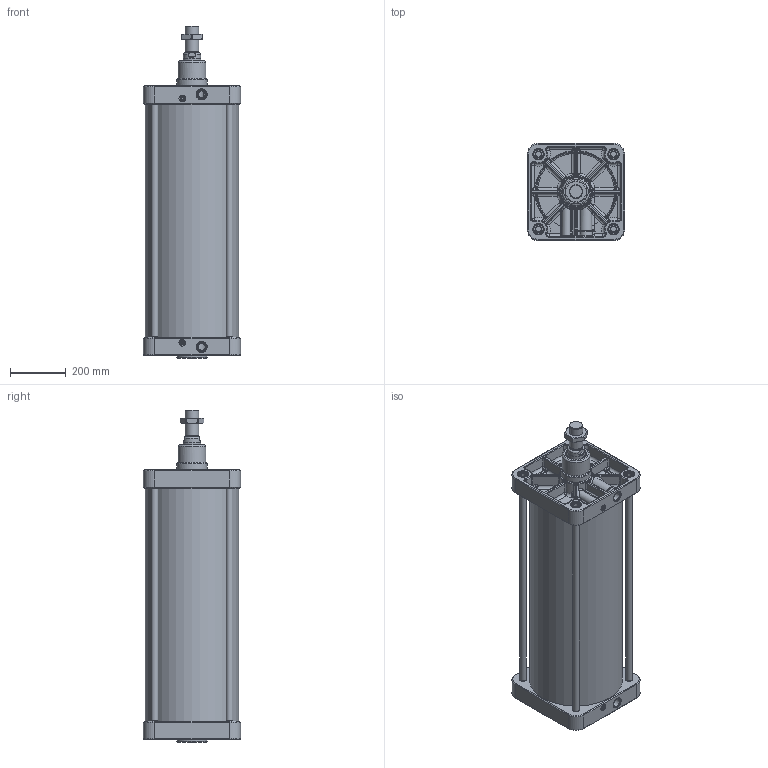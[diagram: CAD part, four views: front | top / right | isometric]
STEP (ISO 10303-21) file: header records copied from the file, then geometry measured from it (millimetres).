
FILE_DESCRIPTION(/* description */ (''),/* implementation_level */ '2;1');
FILE_NAME(/* name */ 'T:\Archivio Inventor\- 00 NUOVI STP PER SITO CON STELO CHE SI MUOVE\SERIE H - U\SERIE UDM\UDM320.---.GS.M\UDM320.750.GS.M.stp',/* time_stamp */ '2020-04-29T16:36:21+02:00',/* author */ ('carlo.corazza'),/* organization */ (''),/* preprocessor_version */ 'ST-DEVELOPER v16.5',/* originating_system */ 'Autodesk Inventor 2017',/* authorisation */ '');
FILE_SCHEMA (('AUTOMOTIVE_DESIGN { 1 0 10303 214 3 1 1 }'));
Length unit declared in the file: millimetre
Products named in the file (7): UDM320.750.GS.M; TP; STELO-750; TA; CORPO-750; TIRANTE-750; 29.2048.000.0
Assembly tree (9 placements, depth 2):
  UDM320.750.GS.M
    TP
    STELO-750
    TA
    TIRANTE-750  x4
    CORPO-750
    29.2048.000.0
Bounding box: 350 x 350 x 1196 mm (x, y, z)
Volume: 21031184.6 mm3; surface area: 3397448.2 mm2
Topology: 9 solids, 16 shells, 1710 faces, 3937 edges, 2221 vertices
Faces by surface type: cylinder 439, bspline 432, plane 380, torus 252, cone 115, sphere 92
Full cylindrical faces by diameter (mm): 8 x2, 9 x1, 10 x1, 11 x2, 11.2 x2, 12 x2, 12.376 x1, 13.4 x4, 14 x2, 15.8 x4, 16 x6, 20.752 x8, 24 x10, 24.5 x8, 25 x6, 30.291 x2, 36 x9, 37 x8, 40 x2, 44.8 x1, 45.835 x1, 48 x1, 62 x1, 63 x1, 64 x1, 64.293 x1, 65.8 x1, 73 x1, 75 x3, 100 x1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
Entity records: 64917 total; most frequent: CARTESIAN_POINT 27888, DIRECTION 7314, ORIENTED_EDGE 7088, EDGE_CURVE 3544, AXIS2_PLACEMENT_3D 3113, VERTEX_POINT 2134, EDGE_LOOP 1966, FACE_OUTER_BOUND 1683
